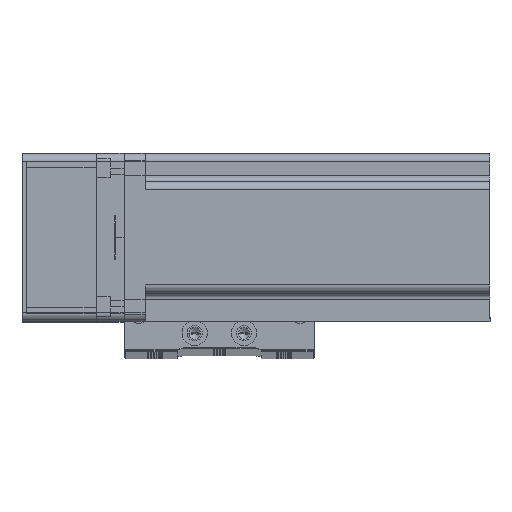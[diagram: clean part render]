
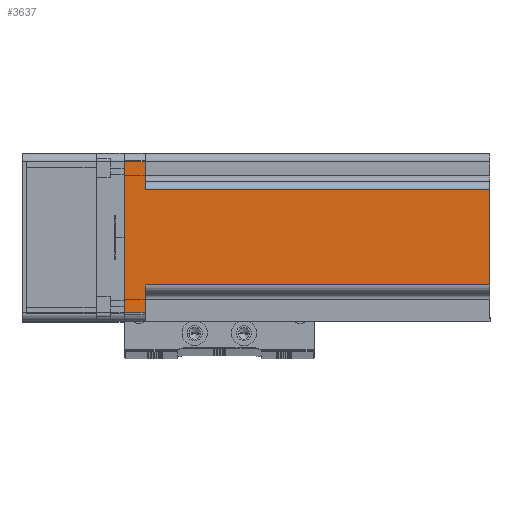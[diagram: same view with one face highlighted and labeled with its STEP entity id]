
A CAD part, top view. The second image highlights one B-rep face of the part: STEP entity #3637.
In plain terms, the highlighted planar face has unit normal (0, 0, 1) as drawn and (0, 1, 0) by its records, which use the part's own axes.
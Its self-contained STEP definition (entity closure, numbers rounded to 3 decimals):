
#1237 = CARTESIAN_POINT ( 'NONE',  ( 17., 30., 130.7 ) ) ;
#1667 = CARTESIAN_POINT ( 'NONE',  ( 30., 30., 130.7 ) ) ;
#2685 = DIRECTION ( 'NONE',  ( 1., 0., 0. ) ) ;
#2765 = VERTEX_POINT ( 'NONE', #5638 ) ;
#3637 = ADVANCED_FACE ( 'NONE', ( #47083 ), #50008, .F. ) ;
#5638 = CARTESIAN_POINT ( 'NONE',  ( 27., 30., 0. ) ) ;
#6076 = DIRECTION ( 'NONE',  ( 0., 0., 1. ) ) ;
#7401 = CARTESIAN_POINT ( 'NONE',  ( -27., 30., 7.5 ) ) ;
#7582 = ORIENTED_EDGE ( 'NONE', *, *, #42991, .T. ) ;
#7638 = CARTESIAN_POINT ( 'NONE',  ( 30., 30., 130.7 ) ) ;
#8071 = ORIENTED_EDGE ( 'NONE', *, *, #32725, .F. ) ;
#8744 = LINE ( 'NONE', #17272, #21292 ) ;
#9101 = LINE ( 'NONE', #20071, #45370 ) ;
#10233 = CARTESIAN_POINT ( 'NONE',  ( 20., 30., 7.5 ) ) ;
#10325 = LINE ( 'NONE', #10233, #21413 ) ;
#10481 = DIRECTION ( 'NONE',  ( -1., 0., 0. ) ) ;
#10972 = CARTESIAN_POINT ( 'NONE',  ( 27., 30., 130.7 ) ) ;
#11518 = VECTOR ( 'NONE', #34533, 1000. ) ;
#12337 = DIRECTION ( 'NONE',  ( 1., 0., 0. ) ) ;
#13601 = VECTOR ( 'NONE', #2685, 1000. ) ;
#15309 = ORIENTED_EDGE ( 'NONE', *, *, #36160, .T. ) ;
#17272 = CARTESIAN_POINT ( 'NONE',  ( -17., 30., 130.7 ) ) ;
#17456 = DIRECTION ( 'NONE',  ( 0., 0., 1. ) ) ;
#17784 = ORIENTED_EDGE ( 'NONE', *, *, #54462, .T. ) ;
#19107 = AXIS2_PLACEMENT_3D ( 'NONE', #7638, #40717, #12337 ) ;
#20071 = CARTESIAN_POINT ( 'NONE',  ( 17., 30., 130.7 ) ) ;
#20138 = VERTEX_POINT ( 'NONE', #7401 ) ;
#21292 = VECTOR ( 'NONE', #17456, 1000. ) ;
#21413 = VECTOR ( 'NONE', #48087, 1000. ) ;
#24614 = VERTEX_POINT ( 'NONE', #53479 ) ;
#25886 = CARTESIAN_POINT ( 'NONE',  ( -17., 30., 130.7 ) ) ;
#28279 = VERTEX_POINT ( 'NONE', #44635 ) ;
#29161 = LINE ( 'NONE', #35797, #13601 ) ;
#32725 = EDGE_CURVE ( 'NONE', #47615, #41012, #36709, .T. ) ;
#33021 = ORIENTED_EDGE ( 'NONE', *, *, #45244, .T. ) ;
#33344 = ORIENTED_EDGE ( 'NONE', *, *, #51997, .T. ) ;
#34376 = CARTESIAN_POINT ( 'NONE',  ( -27., 30., 130.7 ) ) ;
#34533 = DIRECTION ( 'NONE',  ( -1., 0., 0. ) ) ;
#35797 = CARTESIAN_POINT ( 'NONE',  ( -20., 30., 7.5 ) ) ;
#36160 = EDGE_CURVE ( 'NONE', #28279, #2765, #43880, .T. ) ;
#36709 = LINE ( 'NONE', #1667, #11518 ) ;
#37400 = VECTOR ( 'NONE', #10481, 1000. ) ;
#37542 = EDGE_CURVE ( 'NONE', #47615, #43903, #9101, .T. ) ;
#37574 = VERTEX_POINT ( 'NONE', #58260 ) ;
#38444 = EDGE_CURVE ( 'NONE', #28279, #43903, #10325, .T. ) ;
#38878 = LINE ( 'NONE', #52862, #37400 ) ;
#40513 = ORIENTED_EDGE ( 'NONE', *, *, #38444, .F. ) ;
#40717 = DIRECTION ( 'NONE',  ( 0., -1., 0. ) ) ;
#41012 = VERTEX_POINT ( 'NONE', #25886 ) ;
#42838 = EDGE_LOOP ( 'NONE', ( #33021, #7582, #8071, #51088, #40513, #15309, #17784, #33344 ) ) ;
#42991 = EDGE_CURVE ( 'NONE', #24614, #41012, #8744, .T. ) ;
#43880 = LINE ( 'NONE', #10972, #57870 ) ;
#43903 = VERTEX_POINT ( 'NONE', #44839 ) ;
#44635 = CARTESIAN_POINT ( 'NONE',  ( 27., 30., 7.5 ) ) ;
#44839 = CARTESIAN_POINT ( 'NONE',  ( 17., 30., 7.5 ) ) ;
#45244 = EDGE_CURVE ( 'NONE', #20138, #24614, #29161, .T. ) ;
#45370 = VECTOR ( 'NONE', #58059, 1000. ) ;
#46568 = VECTOR ( 'NONE', #6076, 1000. ) ;
#47083 = FACE_OUTER_BOUND ( 'NONE', #42838, .T. ) ;
#47615 = VERTEX_POINT ( 'NONE', #1237 ) ;
#48087 = DIRECTION ( 'NONE',  ( -1., 0., 0. ) ) ;
#50008 = PLANE ( 'NONE',  #19107 ) ;
#51088 = ORIENTED_EDGE ( 'NONE', *, *, #37542, .T. ) ;
#51997 = EDGE_CURVE ( 'NONE', #37574, #20138, #59085, .T. ) ;
#52862 = CARTESIAN_POINT ( 'NONE',  ( 30., 30., 0. ) ) ;
#53158 = DIRECTION ( 'NONE',  ( 0., 0., -1. ) ) ;
#53479 = CARTESIAN_POINT ( 'NONE',  ( -17., 30., 7.5 ) ) ;
#54462 = EDGE_CURVE ( 'NONE', #2765, #37574, #38878, .T. ) ;
#57870 = VECTOR ( 'NONE', #53158, 1000. ) ;
#58059 = DIRECTION ( 'NONE',  ( 0., 0., -1. ) ) ;
#58260 = CARTESIAN_POINT ( 'NONE',  ( -27., 30., 0. ) ) ;
#59085 = LINE ( 'NONE', #34376, #46568 ) ;
